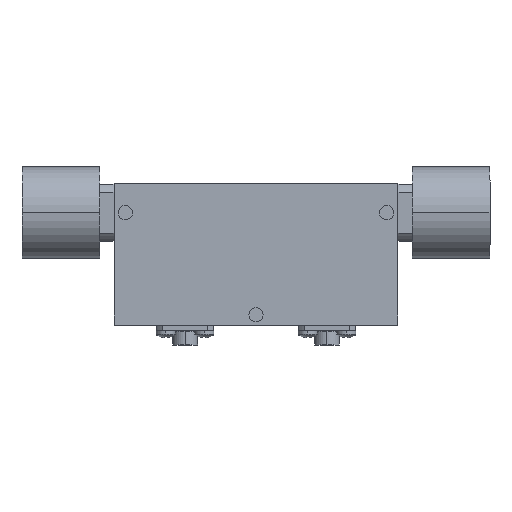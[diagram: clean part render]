
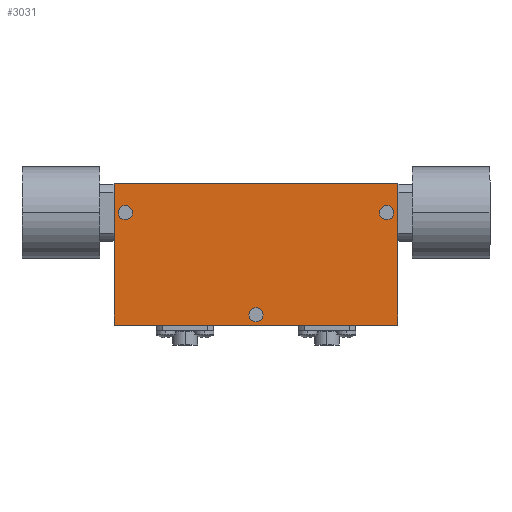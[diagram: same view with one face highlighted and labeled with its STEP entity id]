
A CAD part, top view. The second image highlights one B-rep face of the part: STEP entity #3031.
In plain terms, the highlighted planar face has unit normal (0, 0, 1).
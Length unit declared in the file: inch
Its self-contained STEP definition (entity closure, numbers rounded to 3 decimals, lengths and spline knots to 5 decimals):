
#7 = DIRECTION ( 'NONE',  ( 0., 0., 1. ) ) ;
#156 = CIRCLE ( 'NONE', #319, 0.0625 ) ;
#165 = FACE_BOUND ( 'NONE', #3082, .T. ) ;
#206 = FACE_BOUND ( 'NONE', #2922, .T. ) ;
#296 = CARTESIAN_POINT ( 'NONE',  ( 1.25, -0.625, 0.365 ) ) ;
#302 = ORIENTED_EDGE ( 'NONE', *, *, #2659, .F. ) ;
#308 = CARTESIAN_POINT ( 'NONE',  ( -1.25, -0.625, 0.365 ) ) ;
#309 = ORIENTED_EDGE ( 'NONE', *, *, #729, .F. ) ;
#319 = AXIS2_PLACEMENT_3D ( 'NONE', #539, #2979, #1777 ) ;
#367 = CARTESIAN_POINT ( 'NONE',  ( 1.2125, 0.365, 0.365 ) ) ;
#430 = VECTOR ( 'NONE', #3365, 39.37008 ) ;
#536 = CARTESIAN_POINT ( 'NONE',  ( 0.0625, -0.535, 0.365 ) ) ;
#539 = CARTESIAN_POINT ( 'NONE',  ( -1.15, 0.365, 0.365 ) ) ;
#570 = VERTEX_POINT ( 'NONE', #536 ) ;
#660 = DIRECTION ( 'NONE',  ( 1., 0., 0. ) ) ;
#698 = CIRCLE ( 'NONE', #2187, 0.0625 ) ;
#729 = EDGE_CURVE ( 'NONE', #3823, #3825, #2908, .T. ) ;
#762 = CARTESIAN_POINT ( 'NONE',  ( -1.25, -0.625, 0.365 ) ) ;
#862 = CARTESIAN_POINT ( 'NONE',  ( -1.15, 0.365, 0.365 ) ) ;
#885 = EDGE_CURVE ( 'NONE', #3126, #1955, #1224, .T. ) ;
#897 = ORIENTED_EDGE ( 'NONE', *, *, #3525, .F. ) ;
#905 = DIRECTION ( 'NONE',  ( 0., 0., 1. ) ) ;
#925 = CARTESIAN_POINT ( 'NONE',  ( -1.25, 0.625, 0.365 ) ) ;
#953 = VERTEX_POINT ( 'NONE', #3381 ) ;
#1003 = CARTESIAN_POINT ( 'NONE',  ( 1.25, 0.625, 0.365 ) ) ;
#1133 = FACE_BOUND ( 'NONE', #2920, .T. ) ;
#1151 = CARTESIAN_POINT ( 'NONE',  ( 1.0875, 0.365, 0.365 ) ) ;
#1165 = LINE ( 'NONE', #3422, #3805 ) ;
#1216 = VECTOR ( 'NONE', #2392, 39.37008 ) ;
#1224 = CIRCLE ( 'NONE', #3046, 0.0625 ) ;
#1238 = VECTOR ( 'NONE', #1938, 39.37008 ) ;
#1252 = AXIS2_PLACEMENT_3D ( 'NONE', #3369, #905, #1864 ) ;
#1315 = ORIENTED_EDGE ( 'NONE', *, *, #1919, .T. ) ;
#1422 = EDGE_CURVE ( 'NONE', #3316, #570, #3440, .T. ) ;
#1516 = FACE_OUTER_BOUND ( 'NONE', #2114, .T. ) ;
#1577 = DIRECTION ( 'NONE',  ( 0., 0., 1. ) ) ;
#1594 = CARTESIAN_POINT ( 'NONE',  ( 1.15, 0.365, 0.365 ) ) ;
#1647 = CARTESIAN_POINT ( 'NONE',  ( -0.0625, -0.535, 0.365 ) ) ;
#1651 = CARTESIAN_POINT ( 'NONE',  ( 1.25, 0.625, 0.365 ) ) ;
#1673 = EDGE_CURVE ( 'NONE', #953, #2950, #2717, .T. ) ;
#1706 = AXIS2_PLACEMENT_3D ( 'NONE', #862, #3642, #3624 ) ;
#1777 = DIRECTION ( 'NONE',  ( 1., 0., 0. ) ) ;
#1864 = DIRECTION ( 'NONE',  ( 1., 0., 0. ) ) ;
#1919 = EDGE_CURVE ( 'NONE', #2950, #3171, #2815, .T. ) ;
#1938 = DIRECTION ( 'NONE',  ( 0., 1., 0. ) ) ;
#1955 = VERTEX_POINT ( 'NONE', #367 ) ;
#2010 = DIRECTION ( 'NONE',  ( 0., 0., 1. ) ) ;
#2035 = DIRECTION ( 'NONE',  ( 0., 0., 1. ) ) ;
#2038 = DIRECTION ( 'NONE',  ( 1., 0., 0. ) ) ;
#2114 = EDGE_LOOP ( 'NONE', ( #2675, #2726, #3432, #1315 ) ) ;
#2150 = EDGE_CURVE ( 'NONE', #2736, #953, #1165, .T. ) ;
#2172 = CIRCLE ( 'NONE', #1252, 0.0625 ) ;
#2187 = AXIS2_PLACEMENT_3D ( 'NONE', #2672, #7, #3281 ) ;
#2282 = EDGE_CURVE ( 'NONE', #3171, #2736, #3641, .T. ) ;
#2392 = DIRECTION ( 'NONE',  ( 1., 0., 0. ) ) ;
#2515 = ORIENTED_EDGE ( 'NONE', *, *, #1422, .F. ) ;
#2611 = PLANE ( 'NONE',  #3010 ) ;
#2659 = EDGE_CURVE ( 'NONE', #570, #3316, #2172, .T. ) ;
#2672 = CARTESIAN_POINT ( 'NONE',  ( 1.15, 0.365, 0.365 ) ) ;
#2675 = ORIENTED_EDGE ( 'NONE', *, *, #2282, .T. ) ;
#2717 = LINE ( 'NONE', #925, #430 ) ;
#2726 = ORIENTED_EDGE ( 'NONE', *, *, #2150, .T. ) ;
#2736 = VERTEX_POINT ( 'NONE', #1003 ) ;
#2815 = LINE ( 'NONE', #308, #1216 ) ;
#2865 = CARTESIAN_POINT ( 'NONE',  ( -1.0875, 0.365, 0.365 ) ) ;
#2908 = CIRCLE ( 'NONE', #1706, 0.0625 ) ;
#2920 = EDGE_LOOP ( 'NONE', ( #897, #3646 ) ) ;
#2922 = EDGE_LOOP ( 'NONE', ( #3481, #309 ) ) ;
#2950 = VERTEX_POINT ( 'NONE', #762 ) ;
#2979 = DIRECTION ( 'NONE',  ( 0., 0., 1. ) ) ;
#3010 = AXIS2_PLACEMENT_3D ( 'NONE', #3243, #2035, #3540 ) ;
#3031 = ADVANCED_FACE ( 'NONE', ( #1133, #165, #206, #1516 ), #2611, .T. ) ;
#3046 = AXIS2_PLACEMENT_3D ( 'NONE', #1594, #1577, #660 ) ;
#3082 = EDGE_LOOP ( 'NONE', ( #302, #2515 ) ) ;
#3126 = VERTEX_POINT ( 'NONE', #1151 ) ;
#3171 = VERTEX_POINT ( 'NONE', #296 ) ;
#3243 = CARTESIAN_POINT ( 'NONE',  ( 0., 0., 0.365 ) ) ;
#3281 = DIRECTION ( 'NONE',  ( 1., 0., 0. ) ) ;
#3316 = VERTEX_POINT ( 'NONE', #1647 ) ;
#3365 = DIRECTION ( 'NONE',  ( 0., -1., 0. ) ) ;
#3369 = CARTESIAN_POINT ( 'NONE',  ( 0., -0.535, 0.365 ) ) ;
#3381 = CARTESIAN_POINT ( 'NONE',  ( -1.25, 0.625, 0.365 ) ) ;
#3422 = CARTESIAN_POINT ( 'NONE',  ( -1.25, 0.625, 0.365 ) ) ;
#3426 = EDGE_CURVE ( 'NONE', #3825, #3823, #156, .T. ) ;
#3432 = ORIENTED_EDGE ( 'NONE', *, *, #1673, .T. ) ;
#3434 = AXIS2_PLACEMENT_3D ( 'NONE', #3852, #2010, #2038 ) ;
#3440 = CIRCLE ( 'NONE', #3434, 0.0625 ) ;
#3481 = ORIENTED_EDGE ( 'NONE', *, *, #3426, .F. ) ;
#3525 = EDGE_CURVE ( 'NONE', #1955, #3126, #698, .T. ) ;
#3540 = DIRECTION ( 'NONE',  ( 1., 0., 0. ) ) ;
#3624 = DIRECTION ( 'NONE',  ( 1., 0., 0. ) ) ;
#3641 = LINE ( 'NONE', #1651, #1238 ) ;
#3642 = DIRECTION ( 'NONE',  ( 0., 0., 1. ) ) ;
#3646 = ORIENTED_EDGE ( 'NONE', *, *, #885, .F. ) ;
#3696 = CARTESIAN_POINT ( 'NONE',  ( -1.2125, 0.365, 0.365 ) ) ;
#3711 = DIRECTION ( 'NONE',  ( -1., 0., 0. ) ) ;
#3805 = VECTOR ( 'NONE', #3711, 39.37008 ) ;
#3823 = VERTEX_POINT ( 'NONE', #3696 ) ;
#3825 = VERTEX_POINT ( 'NONE', #2865 ) ;
#3852 = CARTESIAN_POINT ( 'NONE',  ( 0., -0.535, 0.365 ) ) ;
